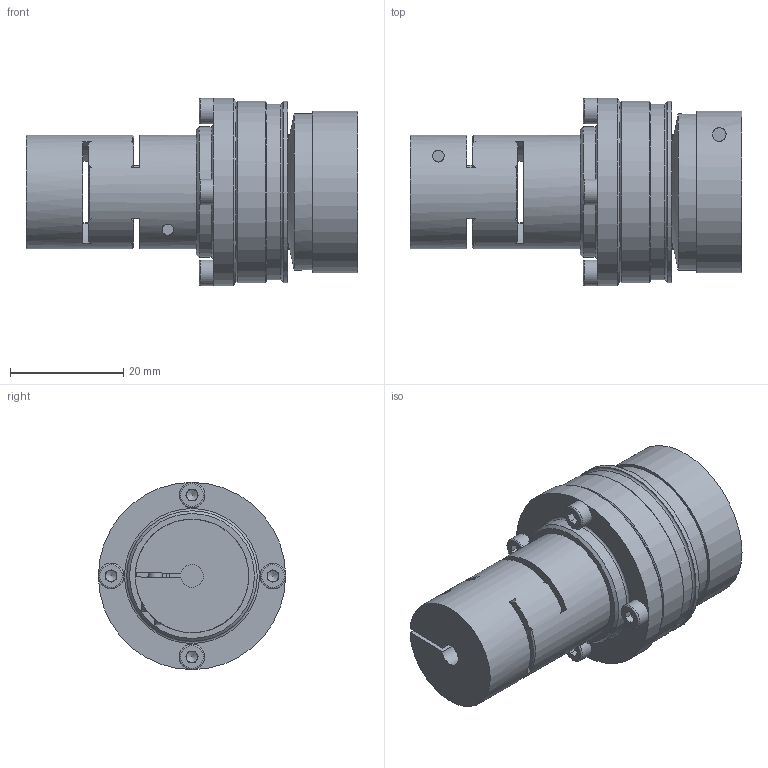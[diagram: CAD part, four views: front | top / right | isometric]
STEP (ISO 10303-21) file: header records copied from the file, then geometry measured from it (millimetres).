
FILE_DESCRIPTION(/* description */ ('Unknown','CAx-IF Rec.Pracs.---Representation and Presentation of Product Manufacturing Information (PMI)---4.0---2014-10-13','CAx-IF Rec.Pracs.---3D Tessellated Geometry---0.4---2014-09-14','2;1'),/* implementation_level */ '2;1');
FILE_NAME(/* name */ 'SKB-EK 1,5',/* time_stamp */ '2024-08-22T14:46:33+02:00',/* author */ ('Unknown'),/* organization */ ('Unknown'),/* preprocessor_version */ 'ST-DEVELOPER v18.102',/* originating_system */ 'Solid Edge',/* authorisation */ 'Unknown');
FILE_SCHEMA (('AP242_MANAGED_MODEL_BASED_3D_ENGINEERING_MIM_LF { 1 0 10303 442 1 1 4 }'));
Length unit declared in the file: millimetre
Products named in the file (5): SKB-EK    3; SKB   3; 24824871; KT103610; MJT-C 20 Anbau SKB-EK
Assembly tree (7 placements, depth 2):
  SKB-EK    3
    SKB   3
    24824871
    KT103610  x4
    MJT-C 20 Anbau SKB-EK
Bounding box: 58.5 x 33 x 33 mm (x, y, z)
Volume: 25957.8 mm3; surface area: 13877.5 mm2
Topology: 7 solids, 8 shells, 298 faces, 694 edges, 436 vertices
Faces by surface type: plane 136, cylinder 91, cone 59, torus 12
Full cylindrical faces by diameter (mm): 2 x2, 2.013 x8, 2.05 x2, 2.4 x2, 2.5 x6, 2.7 x4, 2.75 x2, 3 x1, 4.5 x6, 4.8 x2, 5.5 x1, 6 x2, 8 x2, 10 x1, 15 x1, 15.2 x1, 17.967 x1, 20 x1, 21.6 x1, 23 x1, 24 x2, 27.5 x1, 31 x1, 32 x2, 33 x1
Entity records: 8497 total; most frequent: CARTESIAN_POINT 1934, DIRECTION 1150, ORIENTED_EDGE 890, AXIS2_PLACEMENT_3D 500, EDGE_CURVE 445, FACE_BOUND 365, EDGE_LOOP 358, VERTEX_POINT 326
